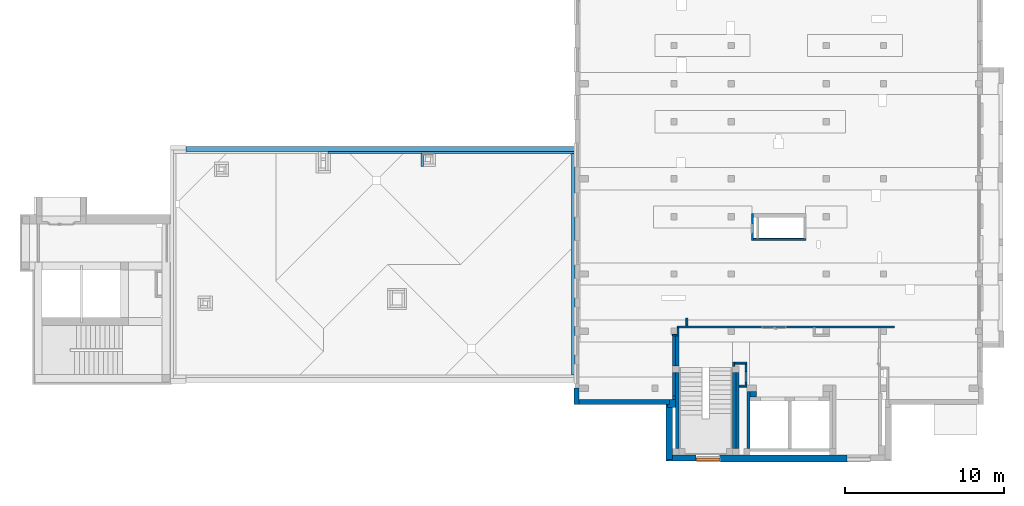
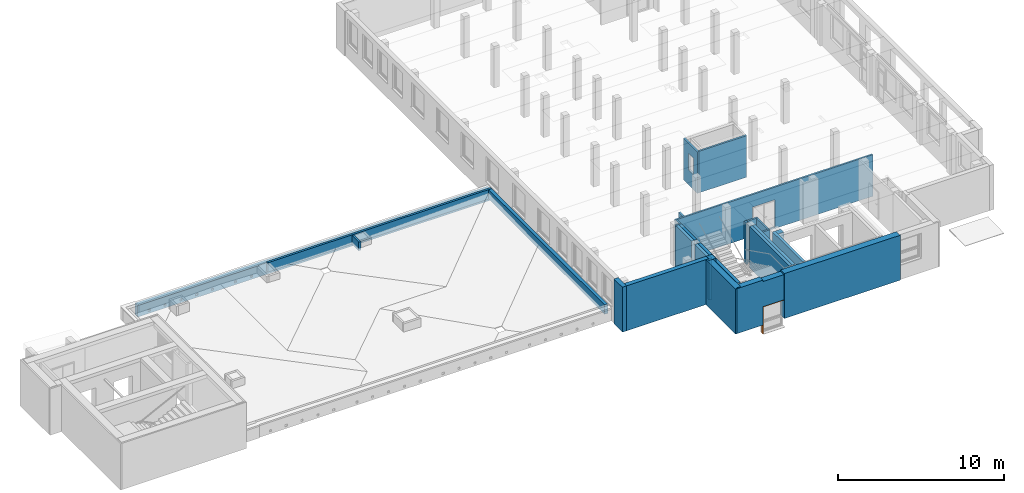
# One storey, part 6 of 27: 29 walls, 1 proxy, 25 openings.
"""IFC4 building model written with IfcOpenShell, lengths in metres."""

from ifc_helpers import new_model, entity, si_unit, converted_unit, derived_unit, frame, frame_2d, origin, origin_with_axes, place, context, subcontext, project, spatial, polyline, rectangle, outline, extrude, faceted_brep, material, layer, layer_set, layer_usage, element, fill, save


model = new_model("IFC4")

# Units and contexts
model_context = context("Model", 3, precision=1e-05, world=origin())
body_context = subcontext(model_context, "Body", "Model", "MODEL_VIEW")
ifc_project = project(units=[si_unit("LENGTHUNIT", "METRE"), si_unit("AREAUNIT", "SQUARE_METRE"), si_unit("VOLUMEUNIT", "CUBIC_METRE"), si_unit("MASSUNIT", "GRAM", prefix="KILO"), converted_unit("PLANEANGLEUNIT", "DEGREE", entity("IfcPlaneAngleMeasure", 0.0174532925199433), si_unit("PLANEANGLEUNIT", "RADIAN"), dimensions=[0, 0, 0, 0, 0, 0, 0]), derived_unit("THERMALTRANSMITTANCEUNIT", [(si_unit("POWERUNIT", "WATT"), 1), (si_unit("THERMODYNAMICTEMPERATUREUNIT", "KELVIN"), -1), (si_unit("LENGTHUNIT", "METRE"), -2)]), derived_unit("VOLUMETRICFLOWRATEUNIT", [(si_unit("LENGTHUNIT", "METRE"), 3), (converted_unit("TIMEUNIT", "hour", entity("IfcTimeMeasure", 3600.0), si_unit("TIMEUNIT", "SECOND"), dimensions=[0, 0, 1, 0, 0, 0, 0]), -1), (si_unit("LENGTHUNIT", "METRE"), -1)])], contexts=[model_context])

# Site, building, storey
site_placement = place(None, origin())
site = spatial("IfcSite", under=ifc_project, at=site_placement, Name="3. ASŘ", CompositionType="ELEMENT")
building_placement = place(site_placement, origin())
building = spatial("IfcBuilding", under=site, at=building_placement, Name="Pavilon C", CompositionType="ELEMENT")
storey_placement = place(building_placement, frame((0.0, 0.0, 7.2)))
storey = spatial("IfcBuildingStorey", under=building, at=storey_placement, Name="Půdorys 3.NP", CompositionType="ELEMENT", Elevation=7.2)

# Walls
ifc_material_1 = material(Name="ZELEZOBETONOVÁ KCE")
ifc_layer_1 = layer(ifc_material_1, 0.3)
ifc_layer_set_1 = layer_set([ifc_layer_1])
ifc_layer_usage_1 = layer_usage(ifc_layer_set_1, "AXIS2", "POSITIVE", 0.0)
wall_1_placement = place(storey_placement, frame((24.75, -1.02, -0.1)))
element("IfcWall", 1, at=wall_1_placement, inside=storey, material=ifc_layer_usage_1, Name="ZELEZOBETONOVÁ KCE", context=body_context, shape_type="SweptSolid", body=[
    extrude(rectangle(XDim=5.7, YDim=0.3, at=frame_2d((2.85, 0.15), x_axis=(1.0, 0.0))), origin_with_axes(), (0.0, 0.0, 1.0), 3.3),
])
ifc_material_2 = material(Name="ZELEZOBETONOVÁ KCE")
ifc_layer_2 = layer(ifc_material_2, 0.3)
ifc_layer_set_2 = layer_set([ifc_layer_2])
ifc_layer_usage_2 = layer_usage(ifc_layer_set_2, "AXIS2", "POSITIVE", 0.0)
wall_2_placement = place(storey_placement, frame((24.45, -2.72848410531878e-15, -0.1), z_axis=(0.0, 0.0, 1.0), x_axis=(0.0, -1.0, 0.0)))
element("IfcWall", 2, at=wall_2_placement, inside=storey, material=ifc_layer_usage_2, Name="ZELEZOBETONOVÁ KCE", context=body_context, shape_type="SweptSolid", body=[
    extrude(rectangle(XDim=1.02, YDim=0.3, at=frame_2d((0.51, 0.15), x_axis=(1.0, 0.0))), origin_with_axes(), (0.0, 0.0, 1.0), 3.3),
])
ifc_material_3 = material(Name="ZDIVO Z CDm")
ifc_layer_3 = layer(ifc_material_3, 0.35)
ifc_layer_set_3 = layer_set([ifc_layer_3])
ifc_layer_usage_3 = layer_usage(ifc_layer_set_3, "AXIS2", "POSITIVE", 0.0)
wall_3_placement = place(storey_placement, frame((35.95, -0.200000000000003, -0.1), z_axis=(0.0, 0.0, 1.0), x_axis=(-1.0, 0.0, 0.0)))
element("IfcWall", 3, at=wall_3_placement, inside=storey, material=ifc_layer_usage_3, Name="ZDIVO Z CDm", context=body_context, shape_type="SweptSolid", body=[
    extrude(rectangle(XDim=0.4, YDim=0.35, at=frame_2d((0.2, 0.175), x_axis=(1.0, 0.0))), origin_with_axes(), (0.0, 0.0, 1.0), 3.05),
])
ifc_material_4 = material(Name="ZDIVO Z CDm")
ifc_layer_4 = layer(ifc_material_4, 0.2)
ifc_layer_set_4 = layer_set([ifc_layer_4])
ifc_layer_usage_4 = layer_usage(ifc_layer_set_4, "AXIS2", "POSITIVE", 0.0)
wall_4_placement = place(storey_placement, frame((30.65, -0.499999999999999, -0.1), z_axis=(0.0, 0.0, 1.0), x_axis=(0.0, -1.0, 0.0)))
element("IfcWall", 4, at=wall_4_placement, inside=storey, material=ifc_layer_usage_4, Name="ZDIVO Z CDm", context=body_context, shape_type="SweptSolid", body=[
    extrude(rectangle(XDim=0.220000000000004, YDim=0.2, at=frame_2d((0.110000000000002, 0.1), x_axis=(1.0, 0.0))), origin_with_axes(), (0.0, 0.0, 1.0), 3.05),
])
ifc_material_5 = material(Name="ZELEZOBETONOVÁ KCE")
ifc_layer_5 = layer(ifc_material_5, 0.2)
ifc_layer_set_5 = layer_set([ifc_layer_5])
ifc_layer_usage_5 = layer_usage(ifc_layer_set_5, "AXIS2", "POSITIVE", 0.0)
wall_5_placement = place(storey_placement, frame((31.05, -3.79999999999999, -0.1), z_axis=(0.0, 0.0, 1.0), x_axis=(0.0, 1.0, 0.0)))
element("IfcWall", 5, at=wall_5_placement, inside=storey, material=ifc_layer_usage_5, Name="ZELEZOBETONOVÁ KCE", context=body_context, shape_type="SweptSolid", body=[
    extrude(rectangle(XDim=4.79999999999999, YDim=0.2, at=frame_2d((2.4, 0.1), x_axis=(1.0, 0.0))), origin_with_axes(), (0.0, 0.0, 1.0), 3.05),
])
ifc_material_6 = material(Name="ZDIVO Z CDm")
ifc_layer_6 = layer(ifc_material_6, 0.125)
ifc_layer_set_6 = layer_set([ifc_layer_6])
ifc_layer_usage_6 = layer_usage(ifc_layer_set_6, "AXIS2", "POSITIVE", 0.0)
wall_6_placement = place(storey_placement, frame((35.35, 1.6500125, -0.1), z_axis=(0.0, 0.0, 1.0), x_axis=(-1.0, 0.0, 0.0)))
element("IfcWall", 6, at=wall_6_placement, inside=storey, material=ifc_layer_usage_6, Name="ZDIVO Z CDm", context=body_context, shape_type="SweptSolid", body=[
    extrude(rectangle(XDim=0.775000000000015, YDim=0.125, at=frame_2d((0.387500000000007, 0.0625), x_axis=(1.0, 0.0))), origin_with_axes(), (0.0, 0.0, 1.0), 3.05),
])
ifc_material_7 = material(Name="ZDIVO Z CDm")
ifc_layer_7 = layer(ifc_material_7, 0.125)
ifc_layer_set_7 = layer_set([ifc_layer_7])
ifc_layer_usage_7 = layer_usage(ifc_layer_set_7, "AXIS2", "POSITIVE", 0.0)
wall_7_placement = place(storey_placement, frame((34.45, 1.6500125, -0.1), z_axis=(0.0, 0.0, 1.0), x_axis=(0.0, -1.0, 0.0)))
element("IfcWall", 7, at=wall_7_placement, inside=storey, material=ifc_layer_usage_7, Name="ZDIVO Z CDm", context=body_context, shape_type="SweptSolid", body=[
    extrude(rectangle(XDim=0.25, YDim=0.125, at=frame_2d((0.125, 0.0625), x_axis=(1.0, 0.0))), origin_with_axes(), (0.0, 0.0, 1.0), 3.05),
])

# Wall, opening
ifc_material_8 = material(Name="ZDIVO Z CDm")
ifc_layer_8 = layer(ifc_material_8, 0.125)
ifc_layer_set_8 = layer_set([ifc_layer_8])
ifc_layer_usage_8 = layer_usage(ifc_layer_set_8, "AXIS2", "POSITIVE", 0.0)
wall_8_placement = place(storey_placement, frame((35.35, 0.199999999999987, -0.1), z_axis=(0.0, 0.0, 1.0), x_axis=(0.0, 1.0, 0.0)))
wall_8 = element("IfcWall", 8, at=wall_8_placement, inside=storey, material=ifc_layer_usage_8, Name="ZDIVO Z CDm", context=body_context, shape_type="SweptSolid", body=[
    extrude(rectangle(XDim=1.32501250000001, YDim=0.125, at=frame_2d((0.662506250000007, 0.0625), x_axis=(1.0, 0.0))), origin_with_axes(), (0.0, 0.0, 1.0), 3.05),
])
opening_1_placement = place(wall_8_placement, frame((0.15, 0.0, 1.1), z_axis=(0.0, 1.0, 0.0), x_axis=(0.0, 0.0, 1.0)))
element("IfcOpeningElement", 9, at=opening_1_placement, cuts=wall_8, Name="Okenní otvor", ObjectType="Opening", context=body_context, shape_type="SweptSolid", body=[
    extrude(outline(polyline([(0.0, 0.7), (0.7, 0.7), (0.7, 0.0), (0.0, 0.0), (0.0, 0.7)])), origin_with_axes(), (0.0, 0.0, 1.0), 0.125),
])

# Walls
ifc_material_9 = material(Name="ZDIVO Z CDm")
ifc_layer_9 = layer(ifc_material_9, 0.125)
ifc_layer_set_9 = layer_set([ifc_layer_9])
ifc_layer_usage_9 = layer_usage(ifc_layer_set_9, "AXIS2", "POSITIVE", 0.0)
wall_9_placement = place(storey_placement, frame((35.35, 0.199999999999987, -0.1), z_axis=(0.0, 0.0, 1.0), x_axis=(-1.0, 1.13686837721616e-16, 0.0)))
element("IfcWall", 10, at=wall_9_placement, inside=storey, material=ifc_layer_usage_9, Name="ZDIVO Z CDm", context=body_context, shape_type="SweptSolid", body=[
    extrude(rectangle(XDim=0.5, YDim=0.125, at=frame_2d((0.25, 0.0625), x_axis=(1.0, 0.0))), origin_with_axes(), (0.0, 0.0, 1.0), 3.05),
])
ifc_material_10 = material(Name="ZELEZOBETONOVÁ KCE")
ifc_layer_10 = layer(ifc_material_10, 0.2)
ifc_layer_set_10 = layer_set([ifc_layer_10])
ifc_layer_usage_10 = layer_usage(ifc_layer_set_10, "AXIS2", "POSITIVE", 0.0)
wall_10_placement = place(storey_placement, frame((30.85, -0.499999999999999, -0.1), z_axis=(0.0, 0.0, 1.0), x_axis=(0.0, 1.0, 0.0)))
element("IfcWall", 11, at=wall_10_placement, inside=storey, material=ifc_layer_usage_10, Name="ZELEZOBETONOVÁ KCE", context=body_context, shape_type="SweptSolid", body=[
    extrude(rectangle(XDim=1.5, YDim=0.2, at=frame_2d((0.75, 0.1), x_axis=(1.0, 0.0))), origin_with_axes(), (0.0, 0.0, 1.0), 3.05),
])
ifc_material_11 = material(Name="ZELEZOBETONOVÁ KCE")
ifc_layer_11 = layer(ifc_material_11, 0.2)
ifc_layer_set_11 = layer_set([ifc_layer_11])
ifc_layer_usage_11 = layer_usage(ifc_layer_set_11, "AXIS2", "POSITIVE", 0.0)
wall_11_placement = place(storey_placement, frame((34.65, 0.999999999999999, -0.1), z_axis=(0.0, 0.0, 1.0), x_axis=(0.0, -1.0, 0.0)))
element("IfcWall", 12, at=wall_11_placement, inside=storey, material=ifc_layer_usage_11, Name="ZELEZOBETONOVÁ KCE", context=body_context, shape_type="SweptSolid", body=[
    extrude(rectangle(XDim=4.8, YDim=0.2, at=frame_2d((2.4, 0.1), x_axis=(1.0, 0.0))), origin_with_axes(), (0.0, 0.0, 1.0), 3.05),
])
ifc_material_12 = material(Name="ZELEZOBETONOVÁ KCE")
ifc_layer_12 = layer(ifc_material_12, 0.2)
ifc_layer_set_12 = layer_set([ifc_layer_12])
ifc_layer_usage_12 = layer_usage(ifc_layer_set_12, "AXIS2", "POSITIVE", 0.0)
wall_12_placement = place(storey_placement, frame((34.45, 1.0, -0.1), z_axis=(0.0, 0.0, 1.0), x_axis=(0.0, -1.0, 0.0)))
element("IfcWall", 13, at=wall_12_placement, inside=storey, material=ifc_layer_usage_12, Name="ZELEZOBETONOVÁ KCE", context=body_context, shape_type="SweptSolid", body=[
    extrude(rectangle(XDim=4.8, YDim=0.2, at=frame_2d((2.4, 0.1), x_axis=(1.0, 0.0))), origin_with_axes(), (0.0, 0.0, 1.0), 3.05),
])
ifc_material_13 = material(Name="ZELEZOBETONOVÁ KCE")
ifc_layer_13 = layer(ifc_material_13, 0.2)
ifc_layer_set_13 = layer_set([ifc_layer_13])
ifc_layer_usage_13 = layer_usage(ifc_layer_set_13, "AXIS2", "POSITIVE", 0.0)
wall_13_placement = place(storey_placement, frame((30.85, 1.4, -0.1), z_axis=(0.0, 0.0, 1.0), x_axis=(0.0, 1.0, 0.0)))
element("IfcWall", 14, at=wall_13_placement, inside=storey, material=ifc_layer_usage_13, Name="ZELEZOBETONOVÁ KCE", context=body_context, shape_type="SweptSolid", body=[
    extrude(rectangle(XDim=1.9, YDim=0.2, at=frame_2d((0.949999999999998, 0.1), x_axis=(1.0, 0.0))), origin_with_axes(), (0.0, 0.0, 1.0), 3.05),
])
ifc_material_14 = material(Name="ZELEZOBETONOVÁ KCE")
ifc_layer_14 = layer(ifc_material_14, 0.2)
ifc_layer_set_14 = layer_set([ifc_layer_14])
ifc_layer_usage_14 = layer_usage(ifc_layer_set_14, "AXIS2", "POSITIVE", 0.0)
wall_14_placement = place(storey_placement, frame((31.05, 1.4, -0.1), z_axis=(0.0, 0.0, 1.0), x_axis=(0.0, 1.0, 0.0)))
element("IfcWall", 15, at=wall_14_placement, inside=storey, material=ifc_layer_usage_14, Name="ZELEZOBETONOVÁ KCE", context=body_context, shape_type="SweptSolid", body=[
    extrude(rectangle(XDim=1.9, YDim=0.2, at=frame_2d((0.949999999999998, 0.1), x_axis=(1.0, 0.0))), origin_with_axes(), (0.0, 0.0, 1.0), 3.05),
])
ifc_material_15 = material(Name="ZDIVO Z CDm")
ifc_layer_15 = layer(ifc_material_15, 0.1)
ifc_layer_set_15 = layer_set([ifc_layer_15])
ifc_layer_usage_15 = layer_usage(ifc_layer_set_15, "AXIS2", "POSITIVE", 0.0)
wall_15_placement = place(storey_placement, frame((30.65, 3.3, -0.1)))
element("IfcWall", 16, at=wall_15_placement, inside=storey, material=ifc_layer_usage_15, Name="ZDIVO Z CDm", context=body_context, shape_type="SweptSolid", body=[
    extrude(rectangle(XDim=0.275, YDim=0.1, at=frame_2d((0.1375, 0.05), x_axis=(1.0, 0.0))), origin_with_axes(), (0.0, 0.0, 1.0), 3.05),
])

# Wall, opening
ifc_material_16 = material(Name="ZDIVO Z CDm")
ifc_layer_16 = layer(ifc_material_16, 0.125)
ifc_layer_set_16 = layer_set([ifc_layer_16])
ifc_layer_usage_16 = layer_usage(ifc_layer_set_16, "AXIS2", "POSITIVE", 0.0)
wall_16_placement = place(storey_placement, frame((30.925, 3.79999999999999, -0.1)))
wall_16 = element("IfcWall", 17, at=wall_16_placement, inside=storey, material=ifc_layer_usage_16, Name="ZDIVO Z CDm", context=body_context, shape_type="SweptSolid", body=[
    extrude(rectangle(XDim=13.725, YDim=0.125, at=frame_2d((6.8625, 0.0625000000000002), x_axis=(1.0, 0.0))), origin_with_axes(), (0.0, 0.0, 1.0), 3.05),
])
opening_2_placement = place(wall_16_placement, frame((5.35, 0.0, 0.1), z_axis=(0.0, 1.0, 0.0), x_axis=(0.0, 0.0, 1.0)))
element("IfcOpeningElement", 18, at=opening_2_placement, cuts=wall_16, Name="Dveřní otvor", ObjectType="Opening", context=body_context, shape_type="SweptSolid", body=[
    extrude(outline(polyline([(0.0, 1.55), (2.02, 1.55), (2.02, 0.0), (0.0, 0.0), (0.0, 1.55)])), origin_with_axes(), (0.0, 0.0, 1.0), 0.125),
])

# Walls
ifc_material_17 = material(Name="ZDIVO Z CDm")
ifc_layer_17 = layer(ifc_material_17, 0.1)
ifc_layer_set_17 = layer_set([ifc_layer_17])
ifc_layer_usage_17 = layer_usage(ifc_layer_set_17, "AXIS2", "POSITIVE", 0.0)
wall_17_placement = place(storey_placement, frame((31.05, 3.3, -0.1), z_axis=(0.0, 0.0, 1.0), x_axis=(0.0, 1.0, 0.0)))
element("IfcWall", 19, at=wall_17_placement, inside=storey, material=ifc_layer_usage_17, Name="ZDIVO Z CDm", context=body_context, shape_type="SweptSolid", body=[
    extrude(outline(polyline([(0.0, -0.125), (0.499999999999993, -0.125), (0.499999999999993, -0.025), (0.1, -0.025), (0.1, 0.0), (0.0, 0.0), (0.0, -0.125)])), frame((0.0, 0.125, 0.0), z_axis=(0.0, 0.0, 1.0), x_axis=(1.0, 0.0, 0.0)), (0.0, 0.0, 1.0), 3.05),
])
ifc_material_18 = material(Name="ZDIVO Z CDm")
ifc_layer_18 = layer(ifc_material_18, 0.125)
ifc_layer_set_18 = layer_set([ifc_layer_18])
ifc_layer_usage_18 = layer_usage(ifc_layer_set_18, "AXIS2", "POSITIVE", 0.0)
wall_18_placement = place(storey_placement, frame((31.5, 4.42499999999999, -0.1), z_axis=(0.0, 0.0, 1.0), x_axis=(0.0, -1.0, 0.0)))
element("IfcWall", 20, at=wall_18_placement, inside=storey, material=ifc_layer_usage_18, Name="ZDIVO Z CDm", context=body_context, shape_type="SweptSolid", body=[
    extrude(rectangle(XDim=0.5, YDim=0.125, at=frame_2d((0.25, 0.0625), x_axis=(1.0, 0.0))), origin_with_axes(), (0.0, 0.0, 1.0), 3.05),
])
ifc_material_19 = material(Name="ZELEZOBETONOVÁ KCE")
ifc_layer_19 = layer(ifc_material_19, 0.2)
ifc_layer_set_19 = layer_set([ifc_layer_19])
ifc_layer_usage_19 = layer_usage(ifc_layer_set_19, "AXIS2", "POSITIVE", 0.0)
wall_19_placement = place(storey_placement, frame((35.55, -3.80000000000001, -0.1), z_axis=(0.0, 0.0, 1.0), x_axis=(0.0, 1.0, 0.0)))
element("IfcWall", 21, at=wall_19_placement, inside=storey, material=ifc_layer_usage_19, Name="ZELEZOBETONOVÁ KCE", context=body_context, shape_type="SweptSolid", body=[
    extrude(rectangle(XDim=3.60000000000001, YDim=0.2, at=frame_2d((1.8, 0.1), x_axis=(1.0, 0.0))), origin_with_axes(), (0.0, 0.0, 1.0), 3.05),
])
ifc_material_20 = material(Name="ZDIVO Z CDm")
ifc_layer_20 = layer(ifc_material_20, 0.48)
ifc_layer_set_20 = layer_set([ifc_layer_20])
ifc_layer_usage_20 = layer_usage(ifc_layer_set_20, "AXIS2", "POSITIVE", 0.0)
wall_20_placement = place(storey_placement, frame((30.35, -1.2, -0.1)))
element("IfcWall", 22, at=wall_20_placement, inside=storey, material=ifc_layer_usage_20, Name="ZDIVO Z CDm", context=body_context, shape_type="SweptSolid", body=[
    extrude(outline(polyline([(0.0, 0.0), (0.499999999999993, 0.0), (0.499999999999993, 0.48), (0.0999999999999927, 0.48), (0.0999999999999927, 0.18), (0.0, 0.18), (0.0, 0.0)])), origin_with_axes(), (0.0, 0.0, 1.0), 3.3),
])

# Wall, opening
ifc_material_21 = material(Name="ZDIVO Z CDm")
ifc_layer_21 = layer(ifc_material_21, 0.125)
ifc_layer_set_21 = layer_set([ifc_layer_21])
ifc_layer_usage_21 = layer_usage(ifc_layer_set_21, "AXIS2", "POSITIVE", 0.0)
wall_21_placement = place(storey_placement, frame((35.7625, 9.32499999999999, -0.1), z_axis=(0.0, 0.0, 1.0), x_axis=(0.0, 1.0, 0.0)))
wall_21 = element("IfcWall", 23, at=wall_21_placement, inside=storey, material=ifc_layer_usage_21, Name="ZDIVO Z CDm", context=body_context, shape_type="SweptSolid", body=[
    extrude(rectangle(XDim=1.67499999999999, YDim=0.125, at=frame_2d((0.837499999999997, 0.0625), x_axis=(1.0, 0.0))), origin_with_axes(), (0.0, 0.0, 1.0), 3.05),
])
opening_3_placement = place(wall_21_placement, frame((1.04999999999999, 0.125, 1.1), z_axis=(0.0, -1.0, 0.0), x_axis=(0.0, 0.0, 1.0)))
element("IfcOpeningElement", 24, at=opening_3_placement, cuts=wall_21, Name="Okenní otvor", ObjectType="Opening", context=body_context, shape_type="SweptSolid", body=[
    extrude(outline(polyline([(0.0, 0.6), (1.2, 0.6), (1.2, 0.0), (0.0, 0.0), (0.0, 0.6)])), origin_with_axes(), (0.0, 0.0, 1.0), 0.125),
])

# Walls
ifc_material_22 = material(Name="ZDIVO Z CDm")
ifc_layer_22 = layer(ifc_material_22, 0.125)
ifc_layer_set_22 = layer_set([ifc_layer_22])
ifc_layer_usage_22 = layer_usage(ifc_layer_set_22, "AXIS2", "POSITIVE", 0.0)
wall_22_placement = place(storey_placement, frame((39.0625, 9.44999999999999, -0.1), z_axis=(0.0, 0.0, 1.0), x_axis=(-1.0, 0.0, 0.0)))
element("IfcWall", 25, at=wall_22_placement, inside=storey, material=ifc_layer_usage_22, Name="ZDIVO Z CDm", context=body_context, shape_type="SweptSolid", body=[
    extrude(rectangle(XDim=3.3, YDim=0.125, at=frame_2d((1.65, 0.0625), x_axis=(1.0, 0.0))), origin_with_axes(), (0.0, 0.0, 1.0), 3.05),
])
ifc_material_23 = material(Name="EPS")
ifc_layer_23 = layer(ifc_material_23, 0.1)
ifc_material_24 = material(Name="ZELEZOBETONOVÁ KCE")
ifc_layer_24 = layer(ifc_material_24, 0.3)
ifc_layer_set_23 = layer_set([ifc_layer_23, ifc_layer_24])
ifc_layer_usage_23 = layer_usage(ifc_layer_set_23, "AXIS2", "POSITIVE", -0.1)
wall_23_placement = place(storey_placement, frame((30.25, -1.02, -0.1), z_axis=(0.0, 0.0, 1.0), x_axis=(0.0, -1.0, 0.0)))
element("IfcWall", 26, at=wall_23_placement, inside=storey, material=ifc_layer_usage_23, Name="ZELEZOBETONOVÁ KCE", context=body_context, shape_type="SweptSolid", body=[
    extrude(outline(polyline([(-3.58, 0.0), (0.0, 0.0), (0.0, 0.1), (-0.1, 0.1), (-0.1, 0.4), (-3.4, 0.4), (-3.4, 0.1), (-3.58, 0.1), (-3.58, 0.0)])), frame((3.58, 0.0, 0.0), z_axis=(0.0, 0.0, 1.0), x_axis=(1.0, 0.0, 0.0)), (0.0, 0.0, 1.0), 3.3),
])

# Wall, openings, proxy
ifc_material_25 = material(Name="EPS")
ifc_layer_25 = layer(ifc_material_25, 0.1)
ifc_material_26 = material(Name="ZELEZOBETONOVÁ KCE")
ifc_layer_26 = layer(ifc_material_26, 0.3)
ifc_layer_set_24 = layer_set([ifc_layer_25, ifc_layer_26])
ifc_layer_usage_24 = layer_usage(ifc_layer_set_24, "AXIS2", "POSITIVE", -0.1)
wall_24_placement = place(storey_placement, frame((30.35, -4.6, -0.1)))
wall_24 = element("IfcWall", 27, at=wall_24_placement, inside=storey, material=ifc_layer_usage_24, Name="ZELEZOBETONOVÁ KCE", context=body_context, shape_type="SweptSolid", body=[
    extrude(outline(polyline([(0.3, 0.4), (0.3, 0.1), (0.0, 0.1), (0.0, 0.0), (3.26, 0.0), (3.26, 0.4), (0.3, 0.4)])), origin_with_axes(), (0.0, 0.0, 1.0), 3.3),
])
opening_4_placement = place(wall_24_placement, frame((1.8, 0.0, 3.2), z_axis=(0.0, 1.0, 0.0), x_axis=(0.0, 0.0, 1.0)))
element("IfcOpeningElement", 28, at=opening_4_placement, cuts=wall_24, Name="Okenní otvor", ObjectType="Opening", context=body_context, shape_type="SweptSolid", body=[
    extrude(outline(polyline([(0.0, 1.5), (0.1, 1.5), (0.1, 0.0), (0.0, 0.0), (0.0, 1.5)])), origin_with_axes(), (0.0, 0.0, 1.0), 0.1),
    extrude(outline(polyline([(0.0, 1.5), (0.1, 1.5), (0.1, 0.0), (0.0, 0.0), (0.0, 1.5)])), frame((0.0, 0.0, 0.1), z_axis=(0.0, 0.0, 1.0), x_axis=(1.0, 0.0, 0.0)), (0.0, 0.0, 1.0), 0.3),
])
opening_5_placement = place(wall_24_placement, frame((1.8, 0.0, -0.65), z_axis=(0.0, 1.0, 0.0), x_axis=(0.0, 0.0, 1.0)))
opening_5 = element("IfcOpeningElement", 29, at=opening_5_placement, cuts=wall_24, Name="Okenní otvor", ObjectType="Opening", context=body_context, shape_type="SweptSolid", body=[
    extrude(outline(polyline([(0.0, 1.5), (2.0, 1.5), (2.0, 0.0), (0.0, 0.0), (0.0, 1.5)])), origin_with_axes(), (0.0, 0.0, 1.0), 0.1),
    extrude(outline(polyline([(0.0, 1.5), (2.0, 1.5), (2.0, 0.0), (0.0, 0.0), (0.0, 1.5)])), frame((0.0, 0.0, 0.1), z_axis=(0.0, 0.0, 1.0), x_axis=(1.0, 0.0, 0.0)), (0.0, 0.0, 1.0), 0.3),
])
ifc_material_27 = material(Name="EPS")
proxy_placement = place(opening_5_placement, origin())
proxy = element("IfcBuildingElementProxy", 30, at=proxy_placement, inside=storey, material=ifc_material_27, context=body_context, shape_type="Brep", body=[
    faceted_brep([(1.13686837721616e-16, 0.0, 0.0), (1.13686837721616e-16, 0.0, 0.2), (2.0, 0.0, 0.2), (2.0, 0.0, 0.0), (2.0, 1.46, 0.2), (2.0, 1.46, 0.0), (1.13686837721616e-16, 0.0399999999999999, 0.0), (1.13686837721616e-16, 0.0399999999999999, 0.2), (1.96, 1.46, 0.0), (1.96, 0.0399999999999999, 0.0), (1.96, 0.0399999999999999, 0.2), (1.96, 1.46, 0.2)], [[[0, 1, 2, 3]], [[3, 2, 4, 5]], [[0, 6, 7, 1]], [[6, 0, 3, 5, 8, 9]], [[1, 7, 10, 11, 4, 2]], [[7, 6, 9, 10]], [[11, 8, 5, 4]], [[10, 9, 8, 11]]], orient=[[False], [False], [False], [False], [False], [False], [False], [False]]),
])
fill(opening_5, proxy)

# Wall
ifc_material_28 = material(Name="EPS")
ifc_layer_27 = layer(ifc_material_28, 0.15)
ifc_material_29 = material(Name="ZELEZOBETONOVÁ KCE")
ifc_layer_28 = layer(ifc_material_29, 0.3)
ifc_layer_set_25 = layer_set([ifc_layer_27, ifc_layer_28])
ifc_layer_usage_25 = layer_usage(ifc_layer_set_25, "AXIS2", "POSITIVE", -0.15)
wall_25_placement = place(storey_placement, frame((33.61, -4.65, -0.1)))
element("IfcWall", 31, at=wall_25_placement, inside=storey, material=ifc_layer_usage_25, Name="ZELEZOBETONOVÁ KCE", context=body_context, shape_type="SweptSolid", body=[
    extrude(outline(polyline([(0.0, 0.0), (8.08, 0.0), (8.08, 0.05), (8.04, 0.05), (8.04, 0.45), (0.0, 0.45), (0.0, 0.0)])), origin_with_axes(), (0.0, 0.0, 1.0), 3.3),
])

# Wall, openings
ifc_material_30 = material(Name="ZELEZOBETONOVÁ KCE")
ifc_layer_29 = layer(ifc_material_30, 0.32)
ifc_layer_set_26 = layer_set([ifc_layer_29])
ifc_layer_usage_26 = layer_usage(ifc_layer_set_26, "AXIS2", "POSITIVE", 0.0)
wall_26_placement = place(storey_placement, frame((24.5, 15.25, -0.1), z_axis=(0.0, 0.0, 1.0), x_axis=(-1.0, 7.42444654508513e-17, 0.0)))
wall_26 = element("IfcWall", 32, at=wall_26_placement, inside=storey, material=ifc_layer_usage_26, Name="ZELEZOBETONOVÁ KCE", context=body_context, shape_type="SweptSolid", body=[
    extrude(rectangle(XDim=24.5, YDim=0.32, at=frame_2d((12.25, 0.16), x_axis=(1.0, 0.0))), origin_with_axes(), (0.0, 0.0, 1.0), 0.85),
])
opening_6_placement = place(wall_26_placement, frame((5.77500000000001, 0.320000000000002, 0.15), z_axis=(0.0, -1.0, 0.0), x_axis=(0.0, 0.0, 1.0)))
element("IfcOpeningElement", 33, at=opening_6_placement, cuts=wall_26, Name="Prostup stěnou", ObjectType="Opening", context=body_context, shape_type="SweptSolid", body=[
    extrude(outline(polyline([(0.0, 0.15), (0.15, 0.15), (0.15, 0.0), (0.0, 0.0), (0.0, 0.15)])), origin_with_axes(), (0.0, 0.0, 1.0), 0.32),
])
opening_7_placement = place(wall_26_placement, frame((4.67500000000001, 0.320000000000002, 0.15), z_axis=(0.0, -1.0, 0.0), x_axis=(0.0, 0.0, 1.0)))
element("IfcOpeningElement", 34, at=opening_7_placement, cuts=wall_26, Name="Prostup stěnou", ObjectType="Opening", context=body_context, shape_type="SweptSolid", body=[
    extrude(outline(polyline([(0.0, 0.15), (0.15, 0.15), (0.15, 0.0), (0.0, 0.0), (0.0, 0.15)])), origin_with_axes(), (0.0, 0.0, 1.0), 0.32),
])
opening_8_placement = place(wall_26_placement, frame((3.57500000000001, 0.320000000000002, 0.15), z_axis=(0.0, -1.0, 0.0), x_axis=(0.0, 0.0, 1.0)))
element("IfcOpeningElement", 35, at=opening_8_placement, cuts=wall_26, Name="Prostup stěnou", ObjectType="Opening", context=body_context, shape_type="SweptSolid", body=[
    extrude(outline(polyline([(0.0, 0.15), (0.15, 0.15), (0.15, 0.0), (0.0, 0.0), (0.0, 0.15)])), origin_with_axes(), (0.0, 0.0, 1.0), 0.32),
])
opening_9_placement = place(wall_26_placement, frame((2.47500000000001, 0.320000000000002, 0.15), z_axis=(0.0, -1.0, 0.0), x_axis=(0.0, 0.0, 1.0)))
element("IfcOpeningElement", 36, at=opening_9_placement, cuts=wall_26, Name="Prostup stěnou", ObjectType="Opening", context=body_context, shape_type="SweptSolid", body=[
    extrude(outline(polyline([(0.0, 0.15), (0.15, 0.15), (0.15, 0.0), (0.0, 0.0), (0.0, 0.15)])), origin_with_axes(), (0.0, 0.0, 1.0), 0.32),
])
opening_10_placement = place(wall_26_placement, frame((1.37500000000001, 0.320000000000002, 0.15), z_axis=(0.0, -1.0, 0.0), x_axis=(0.0, 0.0, 1.0)))
element("IfcOpeningElement", 37, at=opening_10_placement, cuts=wall_26, Name="Prostup stěnou", ObjectType="Opening", context=body_context, shape_type="SweptSolid", body=[
    extrude(outline(polyline([(0.0, 0.15), (0.15, 0.15), (0.15, 0.0), (0.0, 0.0), (0.0, 0.15)])), origin_with_axes(), (0.0, 0.0, 1.0), 0.32),
])
opening_11_placement = place(wall_26_placement, frame((7.37500000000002, 0.319999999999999, 0.15), z_axis=(0.0, -1.0, 0.0), x_axis=(0.0, 0.0, 1.0)))
element("IfcOpeningElement", 38, at=opening_11_placement, cuts=wall_26, Name="Prostup stěnou", ObjectType="Opening", context=body_context, shape_type="SweptSolid", body=[
    extrude(outline(polyline([(0.0, 0.15), (0.15, 0.15), (0.15, 0.0), (0.0, 0.0), (0.0, 0.15)])), origin_with_axes(), (0.0, 0.0, 1.0), 0.32),
])
opening_12_placement = place(wall_26_placement, frame((8.47500000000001, 0.319999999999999, 0.15), z_axis=(0.0, -1.0, 0.0), x_axis=(0.0, 0.0, 1.0)))
element("IfcOpeningElement", 39, at=opening_12_placement, cuts=wall_26, Name="Prostup stěnou", ObjectType="Opening", context=body_context, shape_type="SweptSolid", body=[
    extrude(outline(polyline([(0.0, 0.15), (0.15, 0.15), (0.15, 0.0), (0.0, 0.0), (0.0, 0.15)])), origin_with_axes(), (0.0, 0.0, 1.0), 0.32),
])
opening_13_placement = place(wall_26_placement, frame((9.57500000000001, 0.319999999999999, 0.15), z_axis=(0.0, -1.0, 0.0), x_axis=(0.0, 0.0, 1.0)))
element("IfcOpeningElement", 40, at=opening_13_placement, cuts=wall_26, Name="Prostup stěnou", ObjectType="Opening", context=body_context, shape_type="SweptSolid", body=[
    extrude(outline(polyline([(0.0, 0.15), (0.15, 0.15), (0.15, 0.0), (0.0, 0.0), (0.0, 0.15)])), origin_with_axes(), (0.0, 0.0, 1.0), 0.32),
])
opening_14_placement = place(wall_26_placement, frame((10.675, 0.319999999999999, 0.15), z_axis=(0.0, -1.0, 0.0), x_axis=(0.0, 0.0, 1.0)))
element("IfcOpeningElement", 41, at=opening_14_placement, cuts=wall_26, Name="Prostup stěnou", ObjectType="Opening", context=body_context, shape_type="SweptSolid", body=[
    extrude(outline(polyline([(0.0, 0.15), (0.15, 0.15), (0.15, 0.0), (0.0, 0.0), (0.0, 0.15)])), origin_with_axes(), (0.0, 0.0, 1.0), 0.32),
])
opening_15_placement = place(wall_26_placement, frame((11.775, 0.319999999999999, 0.15), z_axis=(0.0, -1.0, 0.0), x_axis=(0.0, 0.0, 1.0)))
element("IfcOpeningElement", 42, at=opening_15_placement, cuts=wall_26, Name="Prostup stěnou", ObjectType="Opening", context=body_context, shape_type="SweptSolid", body=[
    extrude(outline(polyline([(0.0, 0.15), (0.15, 0.15), (0.15, 0.0), (0.0, 0.0), (0.0, 0.15)])), origin_with_axes(), (0.0, 0.0, 1.0), 0.32),
])
opening_16_placement = place(wall_26_placement, frame((17.775, 0.320000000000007, 0.15), z_axis=(0.0, -1.0, 0.0), x_axis=(0.0, 0.0, 1.0)))
element("IfcOpeningElement", 43, at=opening_16_placement, cuts=wall_26, Name="Prostup stěnou", ObjectType="Opening", context=body_context, shape_type="SweptSolid", body=[
    extrude(outline(polyline([(0.0, 0.15), (0.15, 0.15), (0.15, 0.0), (0.0, 0.0), (0.0, 0.15)])), origin_with_axes(), (0.0, 0.0, 1.0), 0.32),
])
opening_17_placement = place(wall_26_placement, frame((16.675, 0.320000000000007, 0.15), z_axis=(0.0, -1.0, 0.0), x_axis=(0.0, 0.0, 1.0)))
element("IfcOpeningElement", 44, at=opening_17_placement, cuts=wall_26, Name="Prostup stěnou", ObjectType="Opening", context=body_context, shape_type="SweptSolid", body=[
    extrude(outline(polyline([(0.0, 0.15), (0.15, 0.15), (0.15, 0.0), (0.0, 0.0), (0.0, 0.15)])), origin_with_axes(), (0.0, 0.0, 1.0), 0.32),
])
opening_18_placement = place(wall_26_placement, frame((15.575, 0.320000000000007, 0.15), z_axis=(0.0, -1.0, 0.0), x_axis=(0.0, 0.0, 1.0)))
element("IfcOpeningElement", 45, at=opening_18_placement, cuts=wall_26, Name="Prostup stěnou", ObjectType="Opening", context=body_context, shape_type="SweptSolid", body=[
    extrude(outline(polyline([(0.0, 0.15), (0.15, 0.15), (0.15, 0.0), (0.0, 0.0), (0.0, 0.15)])), origin_with_axes(), (0.0, 0.0, 1.0), 0.32),
])
opening_19_placement = place(wall_26_placement, frame((14.475, 0.320000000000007, 0.15), z_axis=(0.0, -1.0, 0.0), x_axis=(0.0, 0.0, 1.0)))
element("IfcOpeningElement", 46, at=opening_19_placement, cuts=wall_26, Name="Prostup stěnou", ObjectType="Opening", context=body_context, shape_type="SweptSolid", body=[
    extrude(outline(polyline([(0.0, 0.15), (0.15, 0.15), (0.15, 0.0), (0.0, 0.0), (0.0, 0.15)])), origin_with_axes(), (0.0, 0.0, 1.0), 0.32),
])
opening_20_placement = place(wall_26_placement, frame((13.375, 0.320000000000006, 0.15), z_axis=(0.0, -1.0, 0.0), x_axis=(0.0, 0.0, 1.0)))
element("IfcOpeningElement", 47, at=opening_20_placement, cuts=wall_26, Name="Prostup stěnou", ObjectType="Opening", context=body_context, shape_type="SweptSolid", body=[
    extrude(outline(polyline([(0.0, 0.15), (0.15, 0.15), (0.15, 0.0), (0.0, 0.0), (0.0, 0.15)])), origin_with_axes(), (0.0, 0.0, 1.0), 0.32),
])
opening_21_placement = place(wall_26_placement, frame((19.375, 0.32, 0.15), z_axis=(0.0, -1.0, 0.0), x_axis=(0.0, 0.0, 1.0)))
element("IfcOpeningElement", 48, at=opening_21_placement, cuts=wall_26, Name="Prostup stěnou", ObjectType="Opening", context=body_context, shape_type="SweptSolid", body=[
    extrude(outline(polyline([(0.0, 0.15), (0.15, 0.15), (0.15, 0.0), (0.0, 0.0), (0.0, 0.15)])), origin_with_axes(), (0.0, 0.0, 1.0), 0.32),
])
opening_22_placement = place(wall_26_placement, frame((20.475, 0.32, 0.15), z_axis=(0.0, -1.0, 0.0), x_axis=(0.0, 0.0, 1.0)))
element("IfcOpeningElement", 49, at=opening_22_placement, cuts=wall_26, Name="Prostup stěnou", ObjectType="Opening", context=body_context, shape_type="SweptSolid", body=[
    extrude(outline(polyline([(0.0, 0.15), (0.15, 0.15), (0.15, 0.0), (0.0, 0.0), (0.0, 0.15)])), origin_with_axes(), (0.0, 0.0, 1.0), 0.32),
])
opening_23_placement = place(wall_26_placement, frame((21.575, 0.32, 0.15), z_axis=(0.0, -1.0, 0.0), x_axis=(0.0, 0.0, 1.0)))
element("IfcOpeningElement", 50, at=opening_23_placement, cuts=wall_26, Name="Prostup stěnou", ObjectType="Opening", context=body_context, shape_type="SweptSolid", body=[
    extrude(outline(polyline([(0.0, 0.15), (0.15, 0.15), (0.15, 0.0), (0.0, 0.0), (0.0, 0.15)])), origin_with_axes(), (0.0, 0.0, 1.0), 0.32),
])
opening_24_placement = place(wall_26_placement, frame((22.675, 0.32, 0.15), z_axis=(0.0, -1.0, 0.0), x_axis=(0.0, 0.0, 1.0)))
element("IfcOpeningElement", 51, at=opening_24_placement, cuts=wall_26, Name="Prostup stěnou", ObjectType="Opening", context=body_context, shape_type="SweptSolid", body=[
    extrude(outline(polyline([(0.0, 0.15), (0.15, 0.15), (0.15, 0.0), (0.0, 0.0), (0.0, 0.15)])), origin_with_axes(), (0.0, 0.0, 1.0), 0.32),
])
opening_25_placement = place(wall_26_placement, frame((23.775, 0.32, 0.15), z_axis=(0.0, -1.0, 0.0), x_axis=(0.0, 0.0, 1.0)))
element("IfcOpeningElement", 52, at=opening_25_placement, cuts=wall_26, Name="Prostup stěnou", ObjectType="Opening", context=body_context, shape_type="SweptSolid", body=[
    extrude(outline(polyline([(0.0, 0.15), (0.15, 0.15), (0.15, 0.0), (0.0, 0.0), (0.0, 0.15)])), origin_with_axes(), (0.0, 0.0, 1.0), 0.32),
])

# Walls
ifc_material_31 = material(Name="MINERÁLNÍ VATA")
ifc_layer_30 = layer(ifc_material_31, 0.15)
ifc_layer_set_27 = layer_set([ifc_layer_30])
ifc_layer_usage_27 = layer_usage(ifc_layer_set_27, "AXIS2", "POSITIVE", 0.0)
wall_27_placement = place(storey_placement, frame((24.5, 14.93, 0.16), z_axis=(0.0, 0.0, 1.0), x_axis=(-1.0, 2.33878418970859e-16, 0.0)))
element("IfcWall", 53, at=wall_27_placement, inside=storey, material=ifc_layer_usage_27, Name="MINERÁLNÍ VATA", context=body_context, shape_type="SweptSolid", body=[
    extrude(rectangle(XDim=15.555, YDim=0.15, at=frame_2d((7.7775, 0.075), x_axis=(1.0, 0.0))), origin_with_axes(), (0.0, 0.0, 1.0), 0.69),
])
ifc_material_32 = material(Name="MINERÁLNÍ VATA")
ifc_layer_31 = layer(ifc_material_32, 0.22)
ifc_layer_set_28 = layer_set([ifc_layer_31])
ifc_layer_usage_28 = layer_usage(ifc_layer_set_28, "AXIS2", "POSITIVE", 0.0)
wall_28_placement = place(storey_placement, frame((24.5, 0.820000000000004, 0.16), z_axis=(0.0, 0.0, 1.0), x_axis=(0.0, 1.0, 0.0)))
element("IfcWall", 54, at=wall_28_placement, inside=storey, material=ifc_layer_usage_28, Name="MINERÁLNÍ VATA", context=body_context, shape_type="SweptSolid", body=[
    extrude(rectangle(XDim=13.96, YDim=0.22, at=frame_2d((6.98, 0.11), x_axis=(1.0, 0.0))), origin_with_axes(), (0.0, 0.0, 1.0), 0.69),
])
ifc_material_33 = material(Name="MINERÁLNÍ VATA")
ifc_layer_32 = layer(ifc_material_33, 0.15)
ifc_layer_set_29 = layer_set([ifc_layer_32])
ifc_layer_usage_29 = layer_usage(ifc_layer_set_29, "AXIS2", "POSITIVE", 0.0)
wall_29_placement = place(storey_placement, frame((14.95, 13.98, 0.16), z_axis=(0.0, 0.0, 1.0), x_axis=(0.0, 1.0, 0.0)))
element("IfcWall", 55, at=wall_29_placement, inside=storey, material=ifc_layer_usage_29, Name="MINERÁLNÍ VATA", context=body_context, shape_type="SweptSolid", body=[
    extrude(rectangle(XDim=0.800000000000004, YDim=0.15, at=frame_2d((0.400000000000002, 0.075), x_axis=(1.0, 0.0))), origin_with_axes(), (0.0, 0.0, 1.0), 0.64),
])

save(model, "model.ifc")
